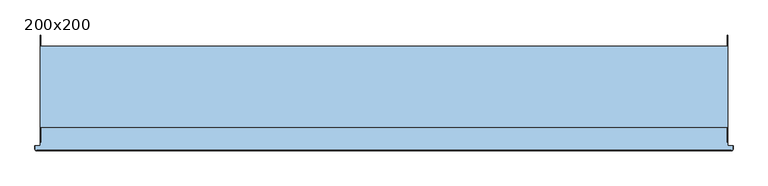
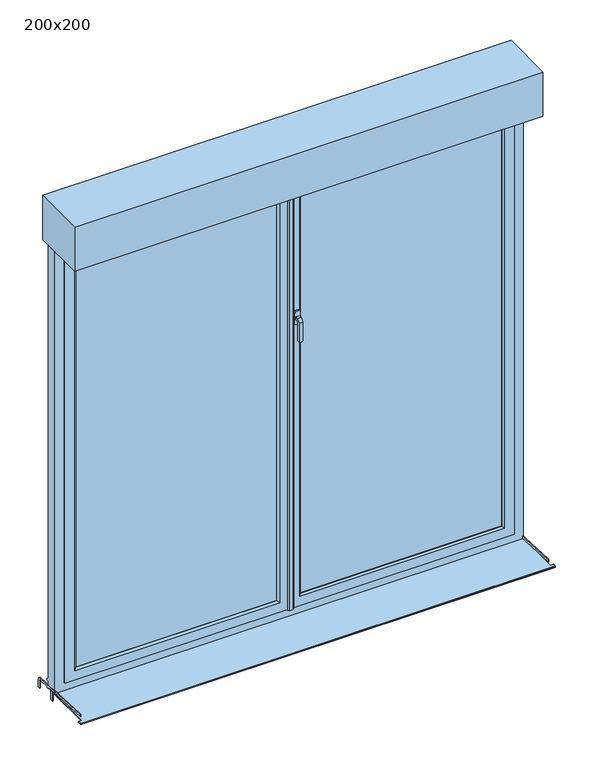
"""IFC4 building model written with IfcOpenShell, lengths in millimetres: window geometry, Tunnel 2V+VR+ Voile : 200x200."""

from ifc_helpers import new_model, si_unit, point, frame, frame_2d, origin, place, context, project, spatial, polyline, circle_curve, trimmed, segment, composite_curve, outline, extrude, faceted_brep, source, transform, mapped, element, save
from ifc_brep_helpers import plane_surface, cylinder_surface, revolved_surface, advanced_brep


def window_200x200_ecfd3ef9(model_context):
    return source(origin(), model_context, "Body", "SolidModel", [
        faceted_brep([(21.0, 87.0, 1356.0), (37.0, 87.0, 1356.0), (37.0, 87.0, 1344.0), (21.0, 87.0, 1344.0), (21.0, 74.5147186, 1356.0), (37.0, 74.5147186, 1356.0), (37.0, 61.0, 1342.4852814), (37.0, 61.0, 1258.5355339), (37.0, 70.2419861, 1258.5355339), (37.0, 72.9900091, 1337.2286157), (37.0, 73.0, 1337.5147186), (37.0, 79.4852814, 1344.0), (21.0, 79.4852814, 1344.0), (21.0, 73.0, 1337.5147186), (21.0, 73.0, 1337.2282668), (21.0, 70.2419861, 1258.5355339), (21.0, 61.0, 1258.5355339), (21.0, 61.0, 1342.4852814), (33.4644661, 61.0, 1255.0), (24.5355339, 61.0, 1255.0), (24.5355339, 70.1185225, 1255.0), (33.4644661, 70.1185225, 1255.0)], [[[0, 1, 2, 3]], [[1, 0, 4, 5]], [[2, 1, 5, 6, 7, 8, 9, 10, 11]], [[3, 2, 11, 12]], [[0, 3, 12, 13, 14, 15, 16, 17, 4]], [[5, 4, 17, 6]], [[11, 10, 13, 12]], [[18, 19, 20, 21]], [[6, 17, 16, 19, 18, 7]], [[13, 10, 9, 14]], [[14, 9, 8, 21, 20, 15]], [[8, 7, 18, 21]], [[16, 15, 20, 19]]]),
        extrude(outline(polyline([(1380.0, 22.0), (1375.0, 17.0), (1325.0, 17.0), (1320.0, 22.0), (1320.0, 36.0), (1325.0, 41.0), (1375.0, 41.0), (1380.0, 36.0), (1380.0, 22.0)])), frame((0.0, 87.0, 0.0), z_axis=(0.0, 1.0, 0.0), x_axis=(0.0, 0.0, 1.0)), (0.0, 0.0, 1.0), 8.0),
        extrude(outline(polyline([(115.0, -0.7861167), (130.0, -1.5722334), (130.0, -38.0), (115.0, -38.0), (115.0, -0.7861167)])), frame((-1000.0, 0.0, 0.0), z_axis=(1.0, 0.0, 0.0), x_axis=(0.0, 1.0, 0.0)), (0.0, 0.0, 1.0), 2.0),
        extrude(outline(polyline([(130.0, -1.5722334), (130.0, -38.0), (115.0, -38.0), (115.0, -0.7861167), (130.0, -1.5722334)])), frame((998.0, 0.0, 0.0), z_axis=(1.0, 0.0, 0.0), x_axis=(0.0, 1.0, 0.0)), (0.0, 0.0, 1.0), 2.0),
        extrude(outline(composite_curve([segment(polyline([(221.5, -38.0), (211.5, -38.0), (211.5, -4.8936094)]), True, "CONTINUOUS"), segment(trimmed(circle_curve(frame_2d((206.5, -4.8936094)), 5.0), [point((211.5, -4.8936094))], [point((206.7616798, 0.0995383))], True, "CARTESIAN"), True, "CONTINUOUS"), segment(polyline([(206.7616798, 0.0995383), (155.0, 2.812253), (155.0, -2.8824279), (150.0, -2.620389), (150.0, 3.0742919), (-90.0, 15.6521589), (-89.4766404, 25.6384543), (207.2850393, 10.0858337)]), True, "CONTINUOUS"), segment(trimmed(circle_curve(frame_2d((206.5, -4.8936094)), 15.0), [point((207.2850393, 10.0858337))], [point((221.5, -4.8936094))], False, "CARTESIAN"), True, "CONTINUOUS"), segment(polyline([(221.5, -4.8936094), (221.5, -38.0)]), True, "CONTINUOUS")], self_intersect=False)), frame((998.0, 0.0, 0.0), z_axis=(1.0, 0.0, 0.0), x_axis=(0.0, 1.0, 0.0)), (0.0, 0.0, 1.0), 2.0),
        extrude(outline(composite_curve([segment(polyline([(155.0, -2.8824279), (150.0, -2.620389), (150.0, 3.0742919), (-90.0, 15.6521589), (-89.4766404, 25.6384543), (207.2850393, 10.0858337)]), True, "CONTINUOUS"), segment(trimmed(circle_curve(frame_2d((206.5, -4.8936094)), 15.0), [point((207.2850393, 10.0858337))], [point((221.5, -4.8936094))], False, "CARTESIAN"), True, "CONTINUOUS"), segment(polyline([(221.5, -4.8936094), (221.5, -38.0), (211.5, -38.0), (211.5, -4.8936094)]), True, "CONTINUOUS"), segment(trimmed(circle_curve(frame_2d((206.5, -4.8936094)), 5.0), [point((211.5, -4.8936094))], [point((206.7616798, 0.0995383))], True, "CARTESIAN"), True, "CONTINUOUS"), segment(polyline([(206.7616798, 0.0995383), (155.0, 2.812253), (155.0, -2.8824279)]), True, "CONTINUOUS")], self_intersect=False)), frame((-1000.0, 0.0, 0.0), z_axis=(1.0, 0.0, 0.0), x_axis=(0.0, 1.0, 0.0)), (0.0, 0.0, 1.0), 2.0),
        extrude(outline(polyline([(50.0, 105.0), (50.0, 125.0), (910.0, 125.0), (910.0, 105.0), (50.0, 105.0)])), frame((0.0, 0.0, 90.0), z_axis=(0.0, 0.0, 1.0), x_axis=(1.0, 0.0, 0.0)), (0.0, 0.0, 1.0), 1820.0),
        faceted_brep([(42.9289322, 135.0, 82.9289322), (50.0, 127.9289322, 90.0), (910.0, 127.9289322, 90.0), (917.0710678, 135.0, 82.9289322), (42.9289322, 135.0, 1917.0710678), (50.0, 127.9289322, 1910.0), (0.0, 135.0, 40.0), (0.0, 135.0, 1960.0), (960.0, 135.0, 1960.0), (960.0, 135.0, 40.0), (917.0710678, 135.0, 1917.0710678), (50.0, 102.0710678, 1910.0), (50.0, 102.0710678, 90.0), (42.9289322, 95.0, 1917.0710678), (42.9289322, 95.0, 82.9289322), (910.0, 102.0710678, 90.0), (960.0, 95.0, 40.0), (960.0, 95.0, 1960.0), (15.0, 95.0, 1960.0), (15.0, 95.0, 40.0), (917.0710678, 95.0, 1917.0710678), (917.0710678, 95.0, 82.9289322), (0.0, 95.0, 40.0), (15.0, 90.0, 40.0), (10.0, 85.0, 40.0), (-5.0, 85.0, 40.0), (-10.0, 90.0, 40.0), (-10.0, 95.0, 40.0), (0.0, 95.0, 1960.0), (-10.0, 95.0, 1960.0), (910.0, 127.9289322, 1910.0), (910.0, 102.0710678, 1910.0), (15.0, 90.0, 1960.0), (10.0, 85.0, 1960.0), (-5.0, 85.0, 1960.0), (-10.0, 90.0, 1960.0)], [[[0, 1, 2, 3]], [[1, 0, 4, 5]], [[6, 7, 8, 9], [4, 0, 3, 10]], [[1, 5, 11, 12]], [[12, 11, 13, 14]], [[1, 12, 15, 2]], [[16, 17, 18, 19], [14, 13, 20, 21]], [[12, 14, 21, 15]], [[22, 6, 9, 16, 19, 23, 24, 25, 26, 27]], [[6, 22, 28, 7]], [[27, 29, 28, 22]], [[30, 10, 3, 2]], [[31, 30, 2, 15]], [[20, 31, 15, 21]], [[8, 17, 16, 9]], [[23, 19, 18, 32]], [[24, 23, 32, 33]], [[25, 24, 33, 34]], [[26, 25, 34, 35]], [[27, 26, 35, 29]], [[5, 4, 10, 30]], [[11, 5, 30, 31]], [[13, 11, 31, 20]], [[7, 28, 29, 35, 34, 33, 32, 18, 17, 8]]]),
        extrude(outline(polyline([(-910.0, 105.0), (-910.0, 125.0), (-50.0, 125.0), (-50.0, 105.0), (-910.0, 105.0)])), frame((0.0, 0.0, 90.0), z_axis=(0.0, 0.0, 1.0), x_axis=(1.0, 0.0, 0.0)), (0.0, 0.0, 1.0), 1820.0),
        faceted_brep([(-960.0, 95.0, 40.0), (-960.0, 135.0, 40.0), (0.0, 135.0, 40.0), (0.0, 95.0, 40.0), (0.0, 135.0, 1960.0), (0.0, 95.0, 1960.0), (-960.0, 135.0, 1960.0), (-42.9289322, 135.0, 1917.0710678), (-917.0710678, 135.0, 1917.0710678), (-917.0710678, 135.0, 82.9289322), (-42.9289322, 135.0, 82.9289322), (-960.0, 95.0, 1960.0), (-42.9289322, 95.0, 82.9289322), (-917.0710678, 95.0, 82.9289322), (-917.0710678, 95.0, 1917.0710678), (-42.9289322, 95.0, 1917.0710678), (-910.0, 102.0710678, 90.0), (-50.0, 102.0710678, 90.0), (-50.0, 102.0710678, 1910.0), (-50.0, 127.9289322, 90.0), (-50.0, 127.9289322, 1910.0), (-910.0, 127.9289322, 90.0), (-910.0, 102.0710678, 1910.0), (-910.0, 127.9289322, 1910.0)], [[[0, 1, 2, 3]], [[3, 2, 4, 5]], [[2, 1, 6, 4], [7, 8, 9, 10]], [[5, 11, 0, 3], [12, 13, 14, 15]], [[16, 13, 12, 17]], [[17, 12, 15, 18]], [[19, 17, 18, 20]], [[9, 21, 19, 10]], [[10, 19, 20, 7]], [[11, 6, 1, 0]], [[22, 14, 13, 16]], [[23, 22, 16, 21]], [[8, 23, 21, 9]], [[21, 16, 17, 19]], [[5, 4, 6, 11]], [[18, 15, 14, 22]], [[7, 20, 23, 8]], [[20, 18, 22, 23]]]),
        faceted_brep([(1000.0, 150.0, 0.0), (1000.0, 150.0, 30.0), (1000.0, 160.0, 30.0), (1000.0, 160.0, 35.0), (1000.0, 150.0, 45.0), (1000.0, 150.0, 2000.0), (1000.0, 100.0, 2000.0), (1000.0, 100.0, 0.0), (-1000.0, 150.0, 0.0), (-1000.0, 150.0, 30.0), (-1000.0, 160.0, 30.0), (-1000.0, 160.0, 35.0), (-1000.0, 150.0, 45.0), (-955.0, 150.0, 45.0), (-950.0, 145.0, 50.0), (950.0, 145.0, 50.0), (955.0, 150.0, 45.0), (-1000.0, 150.0, 2000.0), (955.0, 150.0, 1955.0), (-955.0, 150.0, 1955.0), (-1000.0, 100.0, 2000.0), (-1000.0, 100.0, 0.0), (960.0, 100.0, 40.0), (-960.0, 100.0, 40.0), (-960.0, 100.0, 1960.0), (960.0, 100.0, 1960.0), (960.0, 135.0, 40.0), (-960.0, 135.0, 40.0), (-960.0, 135.0, 1960.0), (960.0, 135.0, 1960.0), (950.0, 135.0, 50.0), (-950.0, 135.0, 50.0), (-950.0, 135.0, 1950.0), (950.0, 135.0, 1950.0), (-950.0, 145.0, 1950.0), (950.0, 145.0, 1950.0)], [[[0, 1, 2, 3, 4, 5, 6, 7]], [[1, 0, 8, 9]], [[2, 1, 9, 10]], [[3, 2, 10, 11]], [[3, 11, 12, 13, 14, 15, 16, 4]], [[17, 5, 4, 16, 18, 19, 13, 12]], [[7, 6, 20, 21], [22, 23, 24, 25]], [[0, 7, 21, 8]], [[8, 21, 20, 17, 12, 11, 10, 9]], [[23, 22, 26, 27]], [[27, 28, 24, 23]], [[22, 25, 29, 26]], [[29, 28, 27, 26], [30, 31, 32, 33]], [[31, 30, 15, 14]], [[34, 32, 31, 14]], [[33, 35, 15, 30]], [[35, 18, 16, 15]], [[19, 34, 14, 13]], [[28, 29, 25, 24]], [[5, 17, 20, 6]], [[33, 32, 34, 35]], [[19, 18, 35, 34]]]),
        advanced_brep(
        [(1000.0, -100.0, 5.0), (1000.0, 100.0, 5.0), (-1000.0, 100.0, 5.0), (-1000.0, -100.0, 5.0), (-1013.9971508, -100.0, 5.0), (-1013.9971508, -110.0, 5.0), (-1010.0, -113.9971508, 5.0), (1010.0, -113.9971508, 5.0), (1013.9971508, -110.0, 5.0), (1013.9971508, -100.0, 5.0), (-1000.0, -100.0, 0.0), (-1000.0, 100.0, 0.0), (1000.0, 100.0, 0.0), (1000.0, -100.0, 0.0), (1013.9971508, -100.0, 0.0), (1013.9971508, -110.0, 0.0), (1010.0, -113.9971508, 0.0), (-1010.0, -113.9971508, 0.0), (-1013.9971508, -110.0, 0.0), (-1013.9971508, -100.0, 0.0), (-1015.0, -110.0, 1.0028492), (-1015.0, -110.0, 3.9971508), (-1015.0, -100.0, 3.9971508), (-1015.0, -100.0, 1.0028492), (1015.0, -100.0, 3.9971508), (1015.0, -100.0, 1.0028492), (1015.0, -110.0, 3.9971508), (1015.0, -110.0, 1.0028492), (1010.0, -115.0, 1.0028492), (1010.0, -115.0, 3.9971508), (-1010.0, -115.0, 3.9971508), (-1010.0, -115.0, 1.0028492)],
        [
            (0, 1),
            (1, 2),
            (2, 3),
            (3, 4),
            (4, 5),
            (5, 6, circle_curve(frame((-1010.0, -110.0, 5.0), z_axis=(0.0, 0.0, 1.0), x_axis=(-1.0, 0.0, 0.0)), 3.9971508)),
            (6, 7),
            (7, 8, circle_curve(frame((1010.0, -110.0, 5.0), z_axis=(0.0, 0.0, 1.0), x_axis=(0.0, -1.0, 0.0)), 3.9971508)),
            (8, 9),
            (9, 0),
            (10, 11),
            (11, 12),
            (12, 13),
            (13, 14),
            (14, 15),
            (15, 16, circle_curve(frame((1010.0, -110.0, 0.0), z_axis=(0.0, 0.0, -1.0), x_axis=(0.0, -1.0, 0.0)), 3.9971508)),
            (16, 17),
            (17, 18, circle_curve(frame((-1010.0, -110.0, 0.0), z_axis=(0.0, 0.0, -1.0), x_axis=(-1.0, 0.0, 0.0)), 3.9971508)),
            (18, 19),
            (19, 10),
            (20, 21),
            (21, 22),
            (22, 23),
            (23, 20),
            (3, 10),
            (19, 23),
            (22, 4),
            (2, 11),
            (1, 12),
            (0, 13),
            (9, 24),
            (24, 25),
            (25, 14),
            (24, 26),
            (26, 27),
            (27, 25),
            (28, 29),
            (29, 30),
            (30, 31),
            (31, 28),
            (28, 27, circle_curve(frame((1010.0, -110.0, 1.0028492), z_axis=(0.0, 0.0, 1.0), x_axis=(0.0, -1.0, 0.0)), 5.0)),
            (26, 29, circle_curve(frame((1010.0, -110.0, 3.9971508), z_axis=(0.0, 0.0, -1.0), x_axis=(0.0, -1.0, 0.0)), 5.0)),
            (20, 31, circle_curve(frame((-1010.0, -110.0, 1.0028492), z_axis=(0.0, 0.0, 1.0), x_axis=(0.0, -1.0, 0.0)), 5.0)),
            (30, 21, circle_curve(frame((-1010.0, -110.0, 3.9971508), z_axis=(0.0, 0.0, -1.0), x_axis=(0.0, -1.0, 0.0)), 5.0)),
            (21, 5),
            (18, 20),
            (30, 6),
            (17, 31),
            (29, 7),
            (16, 28),
            (26, 8),
            (15, 27),
        ],
        [
            plane_surface(frame((-1015.0, -100.0, 5.0), z_axis=(0.0, 0.0, 1.0), x_axis=(0.0, -1.0, 0.0))),
            plane_surface(frame((-1015.0, -100.0, 0.0), z_axis=(0.0, 0.0, -1.0), x_axis=(0.0, 1.0, 0.0))),
            plane_surface(frame((-1015.0, -110.0, 0.0), z_axis=(-1.0, 0.0, 0.0), x_axis=(0.0, 0.0, 1.0))),
            plane_surface(frame((-1015.0, -100.0, 0.0), z_axis=(0.0, 1.0, 0.0), x_axis=(0.0, 0.0, 1.0))),
            plane_surface(frame((-1000.0, -100.0, 0.0), z_axis=(-1.0, 0.0, 0.0), x_axis=(0.0, 0.0, 1.0))),
            plane_surface(frame((-1000.0, 100.0, 0.0), z_axis=(0.0, 1.0, 0.0), x_axis=(0.0, 0.0, 1.0))),
            plane_surface(frame((1000.0, 100.0, 0.0), z_axis=(1.0, 0.0, 0.0), x_axis=(0.0, 0.0, 1.0))),
            plane_surface(frame((1000.0, -100.0, 0.0), z_axis=(0.0, 1.0, 0.0), x_axis=(0.0, 0.0, 1.0))),
            plane_surface(frame((1015.0, -100.0, 0.0), z_axis=(1.0, 0.0, 0.0), x_axis=(0.0, 0.0, 1.0))),
            plane_surface(frame((1010.0, -115.0, 0.0), z_axis=(0.0, -1.0, 0.0), x_axis=(0.0, 0.0, 1.0))),
            cylinder_surface(frame((1010.0, -110.0, 5.0), z_axis=(0.0, 0.0, -1.0), x_axis=(0.0, -1.0, 0.0)), 5.0),
            cylinder_surface(frame((-1010.0, -110.0, 5.0), z_axis=(0.0, 0.0, -1.0), x_axis=(0.0, -1.0, 0.0)), 5.0),
            plane_surface(frame((-1013.9971508, -100.0, 5.0), z_axis=(-0.7071067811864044, 0.0, 0.7071067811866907), x_axis=(0.0, -1.0, 0.0))),
            plane_surface(frame((-1015.0, -100.0, 1.0028492), z_axis=(-0.7071067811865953, 0.0, -0.7071067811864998), x_axis=(0.0, -1.0, 0.0))),
            revolved_surface(polyline([(-1015.0, -110.0, 3.9971508), (-1013.9971508, -110.0, 5.0)]), (-1010.0, -110.0, 5.0), (0.0, 0.0, 1.0)),
            revolved_surface(polyline([(-1013.9971508, -110.0, 0.0), (-1015.0, -110.0, 1.0028492)]), (-1010.0, -110.0, 5.0), (0.0, 0.0, 1.0)),
            plane_surface(frame((-1010.0, -113.9971508, 5.0), z_axis=(0.0, -0.7071067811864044, 0.7071067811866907), x_axis=(1.0, 0.0, 0.0))),
            plane_surface(frame((-1010.0, -115.0, 1.0028492), z_axis=(0.0, -0.7071067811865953, -0.7071067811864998), x_axis=(1.0, 0.0, 0.0))),
            revolved_surface(polyline([(1010.0, -115.0, 3.9971508), (1010.0, -113.9971508, 5.0)]), (1010.0, -110.0, 5.0), (0.0, 0.0, 1.0)),
            revolved_surface(polyline([(1010.0, -113.9971508, 0.0), (1010.0, -115.0, 1.0028492)]), (1010.0, -110.0, 5.0), (0.0, 0.0, 1.0)),
            plane_surface(frame((1013.9971508, -110.0, 5.0), z_axis=(0.7071067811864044, 0.0, 0.7071067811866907), x_axis=(0.0, 1.0, 0.0))),
            plane_surface(frame((1015.0, -110.0, 1.0028492), z_axis=(0.7071067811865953, 0.0, -0.7071067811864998), x_axis=(0.0, 1.0, 0.0))),
        ],
        [
            (0, [[1, 2, 3, 4, 5, 6, 7, 8, 9, 10]]),
            (1, [[11, 12, 13, 14, 15, 16, 17, 18, 19, 20]]),
            (2, [[21, 22, 23, 24]]),
            (3, [[25, -20, 26, -23, 27, -4]]),
            (4, [[-3, 28, -11, -25]]),
            (5, [[-2, 29, -12, -28]]),
            (6, [[-1, 30, -13, -29]]),
            (7, [[-30, -10, 31, 32, 33, -14]]),
            (8, [[-32, 34, 35, 36]]),
            (9, [[37, 38, 39, 40]]),
            (10, [[-37, 41, -35, 42]]),
            (11, [[-21, 43, -39, 44]]),
            (12, [[45, -5, -27, -22]]),
            (13, [[46, -24, -26, -19]]),
            (14, [[-45, -44, 47, -6]]),
            (15, [[-46, -18, 48, -43]]),
            (16, [[-47, -38, 49, -7]]),
            (17, [[-48, -17, 50, -40]]),
            (18, [[-49, -42, 51, -8]]),
            (19, [[-50, -16, 52, -41]]),
            (20, [[-51, -34, -31, -9]]),
            (21, [[-52, -15, -33, -36]]),
        ],
    ),
        extrude(outline(polyline([(-1000.0, -46.6156428), (-1000.0, 189.0), (1000.0, 189.0), (1000.0, -46.6156428), (-1000.0, -46.6156428)])), frame((0.0, 0.0, 2000.0), z_axis=(0.0, 0.0, 1.0), x_axis=(1.0, 0.0, 0.0)), (0.0, 0.0, 1.0), 200.0),
    ])


if __name__ == "__main__":
    model = new_model("IFC4")
    model_context = context("Model", 3, world=origin())
    ifc_project = project(units=[si_unit("LENGTHUNIT", "METRE", prefix="MILLI")], contexts=[model_context])
    site = spatial("IfcSite", under=ifc_project)
    building = spatial("IfcBuilding", under=site)
    placement = place(None, origin())
    window_200x200_shape = window_200x200_ecfd3ef9(model_context)
    element("IfcWindow", 1, ObjectType="Tunnel 2V+VR+ Voile : 200x200", at=placement, inside=building, context=model_context, shape_type="MappedRepresentation", body=[
        mapped(window_200x200_shape, transform((0.0, 0.0, 0.0), x_axis=(1.0, 0.0, 0.0), y_axis=(0.0, 1.0, 0.0), z_axis=(0.0, 0.0, 1.0))),
    ])
    save(model, "model.ifc")
